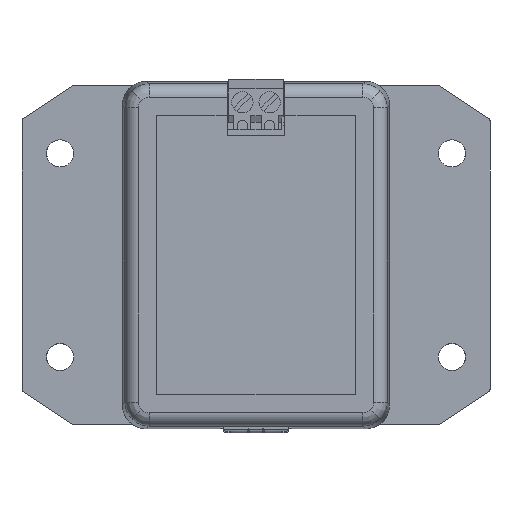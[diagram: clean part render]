
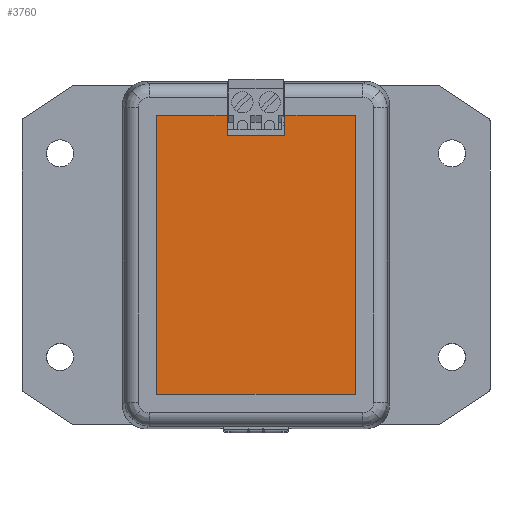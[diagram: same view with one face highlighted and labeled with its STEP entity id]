
A CAD part, top view. The second image highlights one B-rep face of the part: STEP entity #3760.
In plain terms, the highlighted planar face has unit normal (0, 0, 1).
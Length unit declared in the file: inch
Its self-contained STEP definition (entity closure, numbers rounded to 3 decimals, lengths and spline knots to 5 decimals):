
#348 = CARTESIAN_POINT ( 'NONE',  ( 1.19725, 2.15779, 0.96457 ) ) ;
#651 = FACE_OUTER_BOUND ( 'NONE', #65117, .T. ) ;
#995 = CARTESIAN_POINT ( 'NONE',  ( 1.71654, 2.30709, 0.96457 ) ) ;
#1237 = EDGE_CURVE ( 'NONE', #11092, #18782, #39426, .T. ) ;
#3760 = ADVANCED_FACE ( 'NONE', ( #651 ), #5423, .T. ) ;
#3912 = VECTOR ( 'NONE', #45714, 39.37008 ) ;
#5121 = VECTOR ( 'NONE', #69175, 39.37008 ) ;
#5423 = PLANE ( 'NONE',  #16312 ) ;
#6076 = LINE ( 'NONE', #47988, #67134 ) ;
#6641 = VECTOR ( 'NONE', #56545, 39.37008 ) ;
#9112 = VERTEX_POINT ( 'NONE', #52605 ) ;
#9713 = VERTEX_POINT ( 'NONE', #13078 ) ;
#9752 = EDGE_CURVE ( 'NONE', #18782, #69552, #13570, .T. ) ;
#10639 = ORIENTED_EDGE ( 'NONE', *, *, #11870, .T. ) ;
#11071 = DIRECTION ( 'NONE',  ( 0., 0., 1. ) ) ;
#11092 = VERTEX_POINT ( 'NONE', #22988 ) ;
#11627 = CARTESIAN_POINT ( 'NONE',  ( 1.71654, 2.30709, 0.96457 ) ) ;
#11870 = EDGE_CURVE ( 'NONE', #19905, #63335, #54776, .T. ) ;
#13078 = CARTESIAN_POINT ( 'NONE',  ( 0.25197, 2.30709, 0.96457 ) ) ;
#13570 = LINE ( 'NONE', #69053, #71010 ) ;
#16312 = AXIS2_PLACEMENT_3D ( 'NONE', #21565, #11071, #50066 ) ;
#16602 = DIRECTION ( 'NONE',  ( 0., -1., 0. ) ) ;
#17313 = EDGE_CURVE ( 'NONE', #9112, #63335, #6076, .T. ) ;
#18782 = VERTEX_POINT ( 'NONE', #11627 ) ;
#19905 = VERTEX_POINT ( 'NONE', #348 ) ;
#20215 = DIRECTION ( 'NONE',  ( 0., -1., 0. ) ) ;
#20475 = EDGE_CURVE ( 'NONE', #9112, #9713, #48456, .T. ) ;
#21492 = CARTESIAN_POINT ( 'NONE',  ( 0.25197, 2.15779, 0.96457 ) ) ;
#21565 = CARTESIAN_POINT ( 'NONE',  ( 0.25197, 2.30709, 0.96457 ) ) ;
#22145 = ORIENTED_EDGE ( 'NONE', *, *, #30561, .T. ) ;
#22988 = CARTESIAN_POINT ( 'NONE',  ( 1.71654, 0.25197, 0.96457 ) ) ;
#23743 = CARTESIAN_POINT ( 'NONE',  ( 0.77125, 2.15779, 0.96457 ) ) ;
#24612 = VECTOR ( 'NONE', #44376, 39.37008 ) ;
#24643 = CARTESIAN_POINT ( 'NONE',  ( 1.19725, 2.30709, 0.96457 ) ) ;
#24665 = CARTESIAN_POINT ( 'NONE',  ( 0.25197, 0.25197, 0.96457 ) ) ;
#25048 = ORIENTED_EDGE ( 'NONE', *, *, #1237, .T. ) ;
#25183 = EDGE_CURVE ( 'NONE', #69552, #19905, #34812, .T. ) ;
#30561 = EDGE_CURVE ( 'NONE', #65976, #11092, #51153, .T. ) ;
#31222 = ORIENTED_EDGE ( 'NONE', *, *, #17313, .F. ) ;
#34812 = LINE ( 'NONE', #24643, #5121 ) ;
#35739 = DIRECTION ( 'NONE',  ( -1., 0., 0. ) ) ;
#38861 = ORIENTED_EDGE ( 'NONE', *, *, #20475, .T. ) ;
#39426 = LINE ( 'NONE', #60872, #24612 ) ;
#40635 = CARTESIAN_POINT ( 'NONE',  ( 1.19725, 2.30709, 0.96457 ) ) ;
#42579 = VECTOR ( 'NONE', #16602, 39.37008 ) ;
#44300 = LINE ( 'NONE', #49775, #42579 ) ;
#44376 = DIRECTION ( 'NONE',  ( 0., 1., 0. ) ) ;
#45027 = ORIENTED_EDGE ( 'NONE', *, *, #9752, .T. ) ;
#45714 = DIRECTION ( 'NONE',  ( -1., 0., 0. ) ) ;
#46054 = ORIENTED_EDGE ( 'NONE', *, *, #63558, .T. ) ;
#47988 = CARTESIAN_POINT ( 'NONE',  ( 0.77125, 2.30709, 0.96457 ) ) ;
#48456 = LINE ( 'NONE', #995, #3912 ) ;
#49775 = CARTESIAN_POINT ( 'NONE',  ( 0.25197, 2.30709, 0.96457 ) ) ;
#50066 = DIRECTION ( 'NONE',  ( 1., 0., 0. ) ) ;
#50992 = CARTESIAN_POINT ( 'NONE',  ( 0.25197, 0.25197, 0.96457 ) ) ;
#51153 = LINE ( 'NONE', #50992, #6641 ) ;
#52605 = CARTESIAN_POINT ( 'NONE',  ( 0.77125, 2.30709, 0.96457 ) ) ;
#54776 = LINE ( 'NONE', #21492, #67840 ) ;
#56545 = DIRECTION ( 'NONE',  ( 1., 0., 0. ) ) ;
#60872 = CARTESIAN_POINT ( 'NONE',  ( 1.71654, 0.25197, 0.96457 ) ) ;
#63335 = VERTEX_POINT ( 'NONE', #23743 ) ;
#63558 = EDGE_CURVE ( 'NONE', #9713, #65976, #44300, .T. ) ;
#64394 = ORIENTED_EDGE ( 'NONE', *, *, #25183, .T. ) ;
#65117 = EDGE_LOOP ( 'NONE', ( #31222, #38861, #46054, #22145, #25048, #45027, #64394, #10639 ) ) ;
#65976 = VERTEX_POINT ( 'NONE', #24665 ) ;
#66025 = DIRECTION ( 'NONE',  ( -1., 0., 0. ) ) ;
#67134 = VECTOR ( 'NONE', #20215, 39.37008 ) ;
#67840 = VECTOR ( 'NONE', #66025, 39.37008 ) ;
#69053 = CARTESIAN_POINT ( 'NONE',  ( 1.71654, 2.30709, 0.96457 ) ) ;
#69175 = DIRECTION ( 'NONE',  ( 0., -1., 0. ) ) ;
#69552 = VERTEX_POINT ( 'NONE', #40635 ) ;
#71010 = VECTOR ( 'NONE', #35739, 39.37008 ) ;
